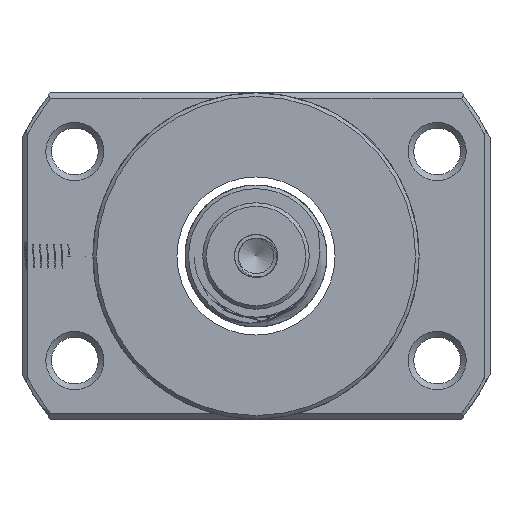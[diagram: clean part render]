
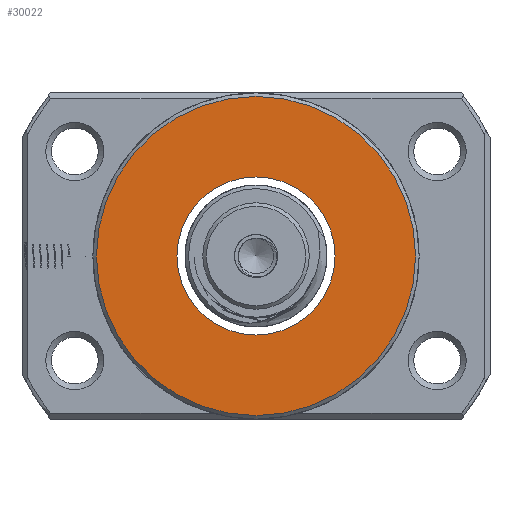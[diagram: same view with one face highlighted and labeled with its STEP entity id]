
A CAD part, left-side view. The second image highlights one B-rep face of the part: STEP entity #30022.
In plain terms, the highlighted planar face has unit normal (-1, 0, 0).
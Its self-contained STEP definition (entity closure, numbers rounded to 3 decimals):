
#2447 = CIRCLE ( 'NONE', #28750, 22.5 ) ;
#3102 = FACE_OUTER_BOUND ( 'NONE', #14331, .T. ) ;
#3328 = AXIS2_PLACEMENT_3D ( 'NONE', #4703, #6977, #16831 ) ;
#4703 = CARTESIAN_POINT ( 'NONE',  ( -53.324, 0., 0. ) ) ;
#6275 = ORIENTED_EDGE ( 'NONE', *, *, #15240, .F. ) ;
#6452 = CIRCLE ( 'NONE', #3328, 11.15 ) ;
#6977 = DIRECTION ( 'NONE',  ( -1., 0., 0. ) ) ;
#7478 = PLANE ( 'NONE',  #8777 ) ;
#7956 = CARTESIAN_POINT ( 'NONE',  ( -53.324, 11.15, 0. ) ) ;
#8777 = AXIS2_PLACEMENT_3D ( 'NONE', #7956, #27326, #19905 ) ;
#10686 = EDGE_LOOP ( 'NONE', ( #6275 ) ) ;
#11262 = EDGE_CURVE ( 'NONE', #18282, #18282, #2447, .T. ) ;
#12727 = CARTESIAN_POINT ( 'NONE',  ( -53.324, 0., 0. ) ) ;
#13276 = CARTESIAN_POINT ( 'NONE',  ( -53.324, 0., 22.5 ) ) ;
#14331 = EDGE_LOOP ( 'NONE', ( #20376 ) ) ;
#15240 = EDGE_CURVE ( 'NONE', #23288, #23288, #6452, .T. ) ;
#16831 = DIRECTION ( 'NONE',  ( 0., 0., 1. ) ) ;
#18282 = VERTEX_POINT ( 'NONE', #13276 ) ;
#19905 = DIRECTION ( 'NONE',  ( 0., 0., 1. ) ) ;
#20147 = DIRECTION ( 'NONE',  ( 0., 0., 1. ) ) ;
#20376 = ORIENTED_EDGE ( 'NONE', *, *, #11262, .T. ) ;
#20701 = CARTESIAN_POINT ( 'NONE',  ( -53.324, 0., 11.15 ) ) ;
#22802 = FACE_BOUND ( 'NONE', #10686, .T. ) ;
#23288 = VERTEX_POINT ( 'NONE', #20701 ) ;
#27326 = DIRECTION ( 'NONE',  ( -1., 0., 0. ) ) ;
#28750 = AXIS2_PLACEMENT_3D ( 'NONE', #12727, #29990, #20147 ) ;
#29990 = DIRECTION ( 'NONE',  ( -1., 0., 0. ) ) ;
#30022 = ADVANCED_FACE ( 'NONE', ( #3102, #22802 ), #7478, .T. ) ;
